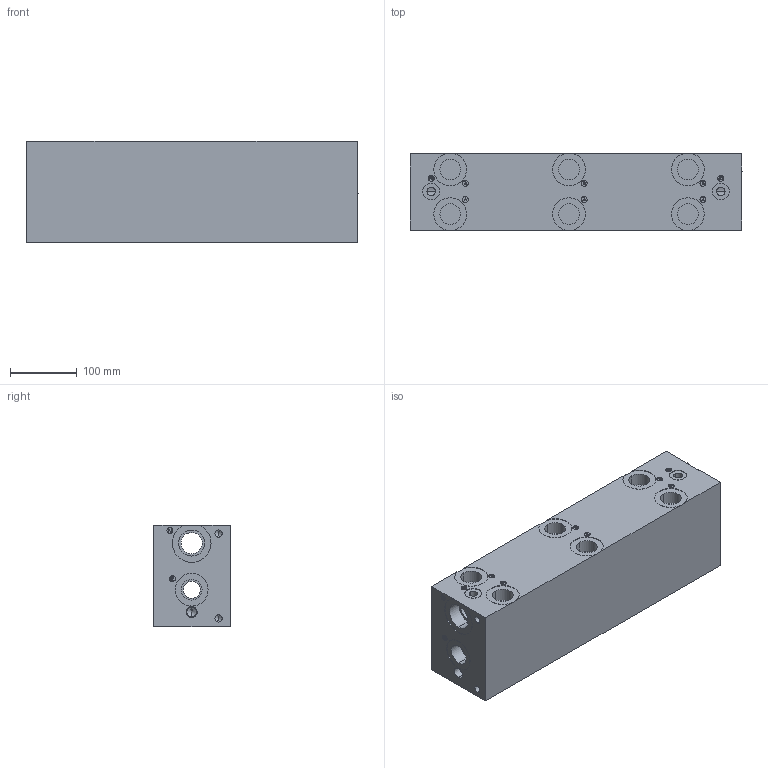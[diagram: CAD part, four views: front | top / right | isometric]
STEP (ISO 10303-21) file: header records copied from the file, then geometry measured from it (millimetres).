
FILE_DESCRIPTION (( 'STEP AP203' ), '1' );
FILE_NAME ('BM-ASS08S7-03-0_Z.STEP', '2015-01-06T16:28:17', ( '' ), ( '' ), 'SwSTEP 2.0', 'SolidWorks 2014', '' );
FILE_SCHEMA (( 'CONFIG_CONTROL_DESIGN' ));
Length unit declared in the file: inch
Products named in the file (1): BM-ASS08S7-03-0_Z
Bounding box: 496.82 x 114.3 x 152.4 mm (x, y, z)
Volume: 7763735.3 mm3; surface area: 431939.1 mm2
Topology: 1 solids, 1 shells, 637 faces, 1572 edges, 968 vertices
Faces by surface type: plane 255, cylinder 213, cone 100, bspline 69
Entity records: 22356 total; most frequent: CARTESIAN_POINT 7786, ORIENTED_EDGE 2952, DIRECTION 2898, EDGE_CURVE 1476, AXIS2_PLACEMENT_3D 999, VERTEX_POINT 968, LINE 900, VECTOR 900
